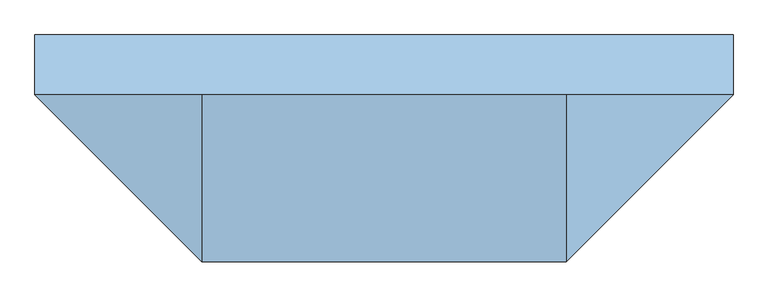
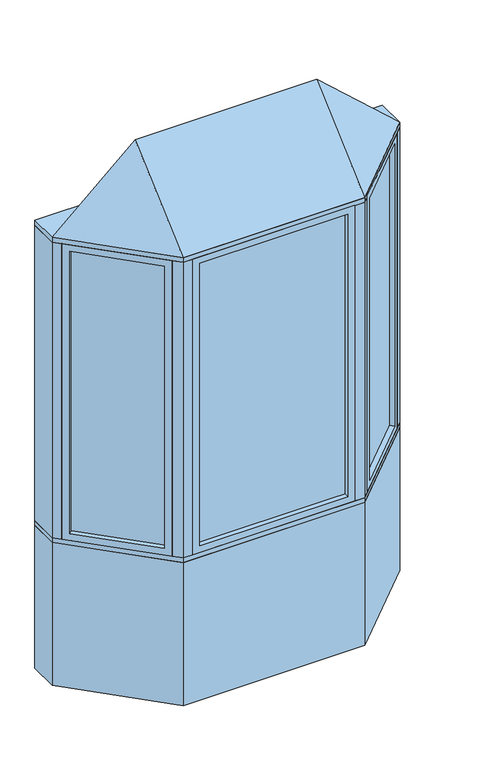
"""IFC4 building model written with IfcOpenShell, lengths in millimetres: window geometry, Pollard_Windows_Tudor Casement Bows and Bays : AML-BAY 45 AFR0516-08-500."""

from ifc_helpers import new_model, si_unit, frame, origin, origin_with_axes, place, context, project, spatial, polyline, outline, extrude, faceted_brep, source, transform, mapped, element, save


def window_4685a1be(model_context):
    return source(origin(), model_context, "Body", "SolidModel", [
        extrude(outline(polyline([(824.0964271, -104.763169), (498.324814, -430.5347822), (494.7327115, -426.9426797), (820.5043247, -101.1710666), (824.0964271, -104.763169)])), frame((0.0, 0.0, 823.1628), z_axis=(0.0, 0.0, 1.0), x_axis=(1.0, 0.0, 0.0)), (0.0, 0.0, 1.0), 1553.6704),
        faceted_brep([(815.116171, -113.7434252, 835.8628), (833.0766833, -131.7039374, 835.8628), (833.0766833, -131.7039374, 2364.1332), (815.116171, -113.7434252, 2364.1332), (820.5043247, -101.1710666, 823.1628), (824.0964271, -104.763169, 823.1628), (824.0964271, -104.763169, 2376.8332), (820.5043247, -101.1710666, 2376.8332), (793.5635563, -92.1908105, 835.8628), (811.5240686, -110.1513227, 835.8628), (811.5240686, -110.1513227, 2364.1332), (793.5635563, -92.1908105, 2364.1332), (858.4369265, -106.3436941, 799.998), (818.9237996, -66.8305672, 799.998), (818.9237996, -66.8305672, 2399.998), (858.4369265, -106.3436941, 2399.998), (525.2655823, -439.5150383, 2364.1332), (507.3050701, -421.5545261, 2364.1332), (498.324814, -430.5347822, 2376.8332), (494.7327115, -426.9426797, 2376.8332), (503.7129677, -417.9624236, 2364.1332), (485.7524554, -400.0019114, 2364.1332), (460.3922121, -425.3621547, 2399.998), (499.9053391, -464.8752816, 2399.998), (525.2655823, -439.5150383, 835.8628), (507.3050701, -421.5545261, 835.8628), (498.324814, -430.5347822, 823.1628), (494.7327115, -426.9426797, 823.1628), (503.7129677, -417.9624236, 835.8628), (485.7524554, -400.0019114, 835.8628), (460.3922121, -425.3621547, 799.998), (499.9053391, -464.8752816, 799.998)], [[[0, 1, 2, 3]], [[4, 5, 6, 7]], [[8, 9, 10, 11]], [[12, 13, 14, 15]], [[3, 2, 16, 17]], [[7, 6, 18, 19]], [[11, 10, 20, 21]], [[15, 14, 22, 23]], [[17, 16, 24, 25]], [[19, 18, 26, 27]], [[21, 20, 28, 29]], [[23, 22, 30, 31]], [[25, 24, 1, 0]], [[5, 26, 18, 6], [3, 17, 25, 0]], [[27, 26, 5, 4]], [[7, 19, 27, 4], [9, 28, 20, 10]], [[29, 28, 9, 8]], [[13, 30, 22, 14], [11, 21, 29, 8]], [[31, 30, 13, 12]], [[15, 23, 31, 12], [1, 24, 16, 2]]]),
        extrude(outline(polyline([(-498.324814, -430.5347822), (-824.0964271, -104.763169), (-820.5043247, -101.1710666), (-494.7327115, -426.9426797), (-498.324814, -430.5347822)])), frame((0.0, 0.0, 823.1628), z_axis=(0.0, 0.0, 1.0), x_axis=(1.0, 0.0, 0.0)), (0.0, 0.0, 1.0), 1553.6704),
        faceted_brep([(-503.7129677, -417.9624236, 2364.1332), (-485.7524554, -400.0019114, 2364.1332), (-485.7524554, -400.0019114, 835.8628), (-503.7129677, -417.9624236, 835.8628), (-498.324814, -430.5347822, 2376.8332), (-494.7327115, -426.9426797, 2376.8332), (-494.7327115, -426.9426797, 823.1628), (-498.324814, -430.5347822, 823.1628), (-525.2655823, -439.5150383, 2364.1332), (-507.3050701, -421.5545261, 2364.1332), (-507.3050701, -421.5545261, 835.8628), (-525.2655823, -439.5150383, 835.8628), (-460.3922121, -425.3621547, 2399.998), (-499.9053391, -464.8752816, 2399.998), (-499.9053391, -464.8752816, 799.998), (-460.3922121, -425.3621547, 799.998), (-793.5635563, -92.1908105, 835.8628), (-811.5240686, -110.1513227, 835.8628), (-820.5043247, -101.1710666, 823.1628), (-824.0964271, -104.763169, 823.1628), (-815.116171, -113.7434252, 835.8628), (-833.0766833, -131.7039374, 835.8628), (-858.4369265, -106.3436941, 799.998), (-818.9237996, -66.8305672, 799.998), (-793.5635563, -92.1908105, 2364.1332), (-811.5240686, -110.1513227, 2364.1332), (-820.5043247, -101.1710666, 2376.8332), (-824.0964271, -104.763169, 2376.8332), (-815.116171, -113.7434252, 2364.1332), (-833.0766833, -131.7039374, 2364.1332), (-858.4369265, -106.3436941, 2399.998), (-818.9237996, -66.8305672, 2399.998)], [[[0, 1, 2, 3]], [[4, 5, 6, 7]], [[8, 9, 10, 11]], [[12, 13, 14, 15]], [[3, 2, 16, 17]], [[7, 6, 18, 19]], [[11, 10, 20, 21]], [[15, 14, 22, 23]], [[17, 16, 24, 25]], [[19, 18, 26, 27]], [[21, 20, 28, 29]], [[23, 22, 30, 31]], [[15, 23, 31, 12], [1, 24, 16, 2]], [[25, 24, 1, 0]], [[5, 26, 18, 6], [3, 17, 25, 0]], [[27, 26, 5, 4]], [[7, 19, 27, 4], [9, 28, 20, 10]], [[29, 28, 9, 8]], [[13, 30, 22, 14], [11, 21, 29, 8]], [[31, 30, 13, 12]]]),
        extrude(outline(polyline([(391.3852, -474.8306207), (-391.3852, -474.8306207), (-391.3852, -469.7506207), (391.3852, -469.7506207), (391.3852, -474.8306207)])), frame((0.0, 0.0, 823.1628), z_axis=(0.0, 0.0, 1.0), x_axis=(1.0, 0.0, 0.0)), (0.0, 0.0, 1.0), 1553.6704),
        faceted_brep([(378.6852, -474.8306207, 835.8628), (378.6852, -500.2306207, 835.8628), (378.6852, -500.2306207, 2364.1332), (378.6852, -474.8306207, 2364.1332), (391.3852, -469.7506207, 823.1628), (391.3852, -474.8306207, 823.1628), (391.3852, -474.8306207, 2376.8332), (391.3852, -469.7506207, 2376.8332), (378.6852, -444.3506207, 835.8628), (378.6852, -469.7506207, 835.8628), (378.6852, -469.7506207, 2364.1332), (378.6852, -444.3506207, 2364.1332), (414.55, -500.2306207, 799.998), (414.55, -444.3506207, 799.998), (414.55, -444.3506207, 2399.998), (414.55, -500.2306207, 2399.998), (-378.6852, -500.2306207, 2364.1332), (-378.6852, -474.8306207, 2364.1332), (-391.3852, -474.8306207, 2376.8332), (-391.3852, -469.7506207, 2376.8332), (-378.6852, -469.7506207, 2364.1332), (-378.6852, -444.3506207, 2364.1332), (-414.55, -444.3506207, 2399.998), (-414.55, -500.2306207, 2399.998), (-378.6852, -500.2306207, 835.8628), (-378.6852, -474.8306207, 835.8628), (-391.3852, -474.8306207, 823.1628), (-391.3852, -469.7506207, 823.1628), (-378.6852, -469.7506207, 835.8628), (-378.6852, -444.3506207, 835.8628), (-414.55, -444.3506207, 799.998), (-414.55, -500.2306207, 799.998)], [[[0, 1, 2, 3]], [[4, 5, 6, 7]], [[8, 9, 10, 11]], [[12, 13, 14, 15]], [[3, 2, 16, 17]], [[7, 6, 18, 19]], [[11, 10, 20, 21]], [[15, 14, 22, 23]], [[17, 16, 24, 25]], [[19, 18, 26, 27]], [[21, 20, 28, 29]], [[23, 22, 30, 31]], [[15, 23, 31, 12], [1, 24, 16, 2]], [[25, 24, 1, 0]], [[5, 26, 18, 6], [3, 17, 25, 0]], [[27, 26, 5, 4]], [[7, 19, 27, 4], [9, 28, 20, 10]], [[29, 28, 9, 8]], [[13, 30, 22, 14], [11, 21, 29, 8]], [[31, 30, 13, 12]]]),
        faceted_brep([(890.0, -74.7806207, 2425.398), (464.55, -500.2306207, 2425.398), (-464.55, -500.2306207, 2425.398), (-890.0, -74.7806207, 2425.398), (-464.55, -74.7806207, 2806.398), (464.55, -74.7806207, 2806.398)], [[[0, 1, 2, 3]], [[3, 2, 4]], [[2, 1, 5, 4]], [[1, 0, 5]], [[0, 3, 4, 5]]]),
        extrude(outline(polyline([(-890.0, 77.6193793), (890.0, 77.6193793), (890.0, -74.7806207), (464.55, -500.2306207), (-464.55, -500.2306207), (-890.0, -74.7806207), (-890.0, 77.6193793)])), frame((0.0, 0.0, 2399.998), z_axis=(0.0, 0.0, 1.0), x_axis=(1.0, 0.0, 0.0)), (0.0, 0.0, 1.0), 25.4),
        extrude(outline(polyline([(-890.0, -74.7806207), (-890.0, 77.6193793), (-826.8738531, 77.6193793), (-826.8738531, -74.7806207), (-858.4369265, -106.3436941), (-890.0, -74.7806207)])), frame((0.0, 0.0, 799.998), z_axis=(0.0, 0.0, 1.0), x_axis=(1.0, 0.0, 0.0)), (0.0, 0.0, 1.0), 1600.0),
        extrude(outline(polyline([(890.0, 77.6193793), (890.0, -74.7806207), (858.4369265, -106.3436941), (826.8738531, -74.7806207), (826.8738531, 77.6193793), (890.0, 77.6193793)])), frame((0.0, 0.0, 799.998), z_axis=(0.0, 0.0, 1.0), x_axis=(1.0, 0.0, 0.0)), (0.0, 0.0, 1.0), 1600.0),
        extrude(outline(polyline([(464.55, -500.2306207), (414.55, -500.2306207), (414.55, -450.2306207), (443.8393219, -450.2306207), (464.55, -429.5199425), (499.9053391, -464.8752816), (464.55, -500.2306207)])), frame((0.0, 0.0, 799.998), z_axis=(0.0, 0.0, 1.0), x_axis=(1.0, 0.0, 0.0)), (0.0, 0.0, 1.0), 1600.0),
        extrude(outline(polyline([(-464.55, -500.2306207), (-499.9053391, -464.8752816), (-464.55, -429.5199425), (-443.8393219, -450.2306207), (-414.55, -450.2306207), (-414.55, -500.2306207), (-464.55, -500.2306207)])), frame((0.0, 0.0, 799.998), z_axis=(0.0, 0.0, 1.0), x_axis=(1.0, 0.0, 0.0)), (0.0, 0.0, 1.0), 1600.0),
        extrude(outline(polyline([(-464.55, -500.2306207), (-890.0, -74.7806207), (-890.0, 77.6193793), (-826.8738531, 77.6193793), (-401.4238531, -347.8306207), (401.4238531, -347.8306207), (826.8738531, 77.6193793), (890.0, 77.6193793), (890.0, -74.7806207), (464.55, -500.2306207), (-464.55, -500.2306207)])), frame((0.0, 0.0, 774.598), z_axis=(0.0, 0.0, 1.0), x_axis=(1.0, 0.0, 0.0)), (0.0, 0.0, 1.0), 25.4),
        extrude(outline(polyline([(-890.0, -74.7806207), (-890.0, 77.6193793), (-826.8738531, 77.6193793), (-401.4238531, -347.8306207), (401.4238531, -347.8306207), (826.8738531, 77.6193793), (890.0, 77.6193793), (890.0, -74.7806207), (464.55, -500.2306207), (-464.55, -500.2306207), (-890.0, -74.7806207)])), origin_with_axes(), (0.0, 0.0, 1.0), 774.598),
    ])


if __name__ == "__main__":
    model = new_model("IFC4")
    model_context = context("Model", 3, world=origin())
    ifc_project = project(units=[si_unit("LENGTHUNIT", "METRE", prefix="MILLI")], contexts=[model_context])
    site = spatial("IfcSite", under=ifc_project)
    building = spatial("IfcBuilding", under=site)
    placement = place(None, origin())
    window_shape = window_4685a1be(model_context)
    element("IfcWindow", 1, ObjectType="Pollard_Windows_Tudor Casement Bows and Bays : AML-BAY 45 AFR0516-08-500", at=placement, inside=building, context=model_context, shape_type="MappedRepresentation", body=[
        mapped(window_shape, transform((0.0, 0.0, 0.0), x_axis=(1.0, 0.0, 0.0), y_axis=(0.0, 1.0, 0.0), z_axis=(0.0, 0.0, 1.0))),
    ])
    save(model, "model.ifc")
